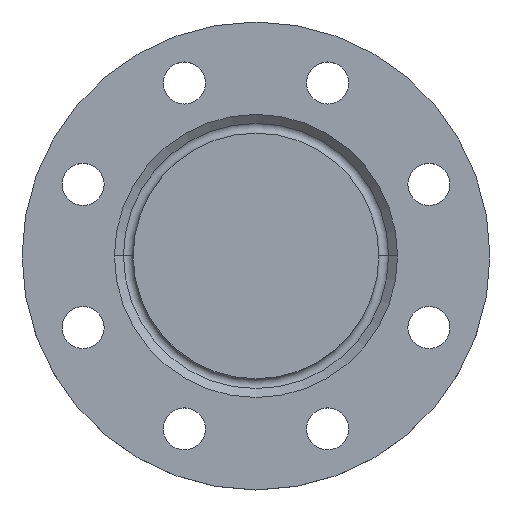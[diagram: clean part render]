
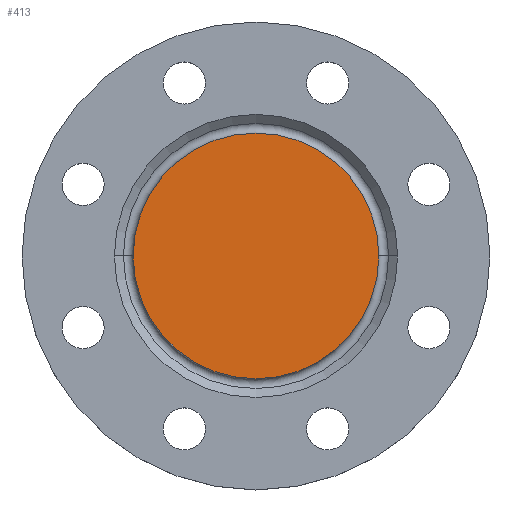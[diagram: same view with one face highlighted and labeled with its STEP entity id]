
A CAD part, top view. The second image highlights one B-rep face of the part: STEP entity #413.
In plain terms, the highlighted planar face has unit normal (0, 0, 1).
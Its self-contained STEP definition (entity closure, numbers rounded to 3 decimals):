
#128 = EDGE_CURVE ( 'NONE', #522, #881, #241, .T. ) ;
#139 = CARTESIAN_POINT ( 'NONE',  ( 52.5, 0., 0. ) ) ;
#162 = CIRCLE ( 'NONE', #389, 52.5 ) ;
#213 = EDGE_CURVE ( 'NONE', #881, #522, #162, .T. ) ;
#218 = ORIENTED_EDGE ( 'NONE', *, *, #213, .F. ) ;
#236 = DIRECTION ( 'NONE',  ( -1., 0., 0. ) ) ;
#241 = CIRCLE ( 'NONE', #265, 52.5 ) ;
#265 = AXIS2_PLACEMENT_3D ( 'NONE', #745, #1085, #306 ) ;
#277 = CARTESIAN_POINT ( 'NONE',  ( 0., 0., 0. ) ) ;
#306 = DIRECTION ( 'NONE',  ( -1., 0., 0. ) ) ;
#389 = AXIS2_PLACEMENT_3D ( 'NONE', #677, #1013, #236 ) ;
#413 = ADVANCED_FACE ( 'NONE', ( #723 ), #1057, .T. ) ;
#522 = VERTEX_POINT ( 'NONE', #139 ) ;
#633 = DIRECTION ( 'NONE',  ( 0., 0., 1. ) ) ;
#677 = CARTESIAN_POINT ( 'NONE',  ( 0., 0., 0. ) ) ;
#705 = ORIENTED_EDGE ( 'NONE', *, *, #128, .F. ) ;
#723 = FACE_OUTER_BOUND ( 'NONE', #1143, .T. ) ;
#745 = CARTESIAN_POINT ( 'NONE',  ( 0., 0., 0. ) ) ;
#880 = AXIS2_PLACEMENT_3D ( 'NONE', #277, #633, #975 ) ;
#881 = VERTEX_POINT ( 'NONE', #904 ) ;
#904 = CARTESIAN_POINT ( 'NONE',  ( -52.5, 0., 0. ) ) ;
#975 = DIRECTION ( 'NONE',  ( 1., 0., 0. ) ) ;
#1013 = DIRECTION ( 'NONE',  ( 0., 0., -1. ) ) ;
#1057 = PLANE ( 'NONE',  #880 ) ;
#1085 = DIRECTION ( 'NONE',  ( 0., 0., -1. ) ) ;
#1143 = EDGE_LOOP ( 'NONE', ( #218, #705 ) ) ;
